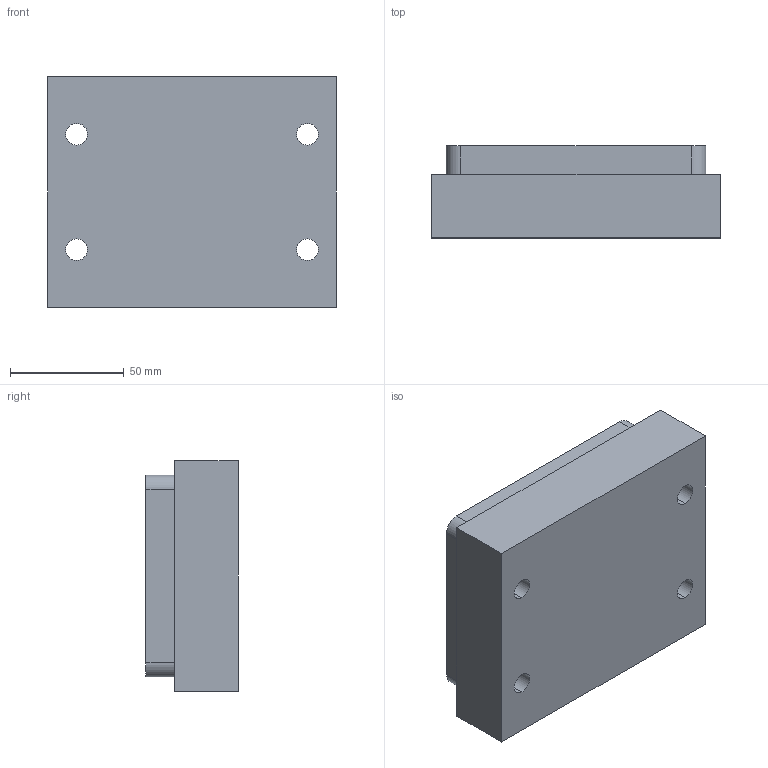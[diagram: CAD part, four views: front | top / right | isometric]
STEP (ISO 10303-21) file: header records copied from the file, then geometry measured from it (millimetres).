
FILE_DESCRIPTION (( 'STEP AP203' ), '1' );
FILE_NAME ('Laser Base.STEP', '2023-09-27T21:19:20', ( '' ), ( '' ), 'SwSTEP 2.0', 'SolidWorks 2023', '' );
FILE_SCHEMA (( 'CONFIG_CONTROL_DESIGN' ));
Length unit declared in the file: inch
Products named in the file (1): Laser Base
Bounding box: 127 x 40.64 x 101.6 mm (x, y, z)
Volume: 460260.5 mm3; surface area: 53997.2 mm2
Topology: 1 solids, 1 shells, 83 faces, 221 edges, 129 vertices
Faces by surface type: cylinder 40, cone 22, plane 21
Entity records: 2598 total; most frequent: CARTESIAN_POINT 516, DIRECTION 429, ORIENTED_EDGE 398, EDGE_CURVE 199, AXIS2_PLACEMENT_3D 158, VERTEX_POINT 129, LINE 113, VECTOR 113
